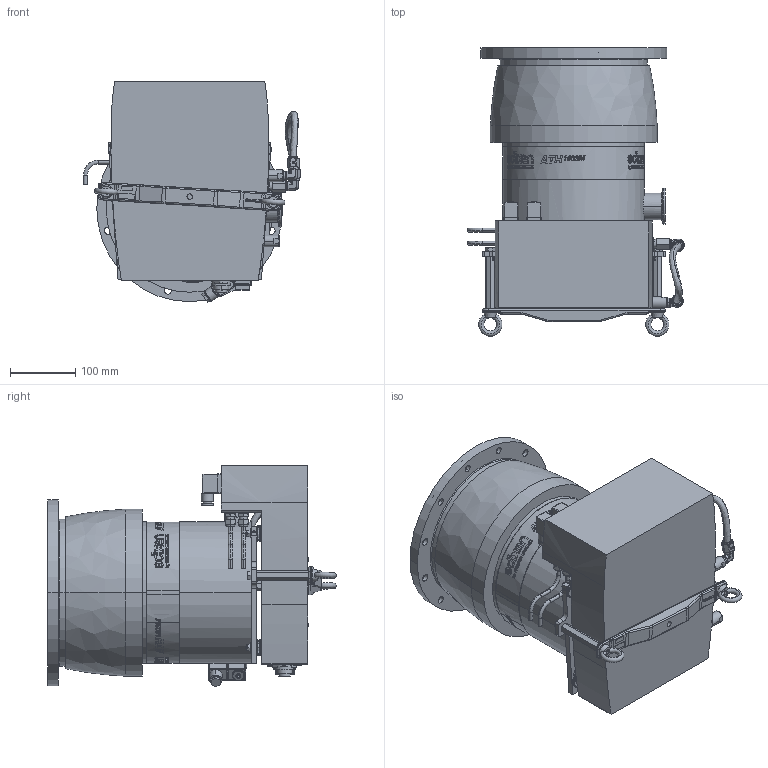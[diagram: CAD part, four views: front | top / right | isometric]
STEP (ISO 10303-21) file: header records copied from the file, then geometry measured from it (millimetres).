
FILE_DESCRIPTION((''),'2;1');
FILE_NAME('ENV-ATH1603M-GEN','2017-03-17T',('RCRIADO'),(''),'PRO/ENGINEER BY PARAMETRIC TECHNOLOGY CORPORATION, 2015280','PRO/ENGINEER BY PARAMETRIC TECHNOLOGY CORPORATION, 2015280','');
FILE_SCHEMA(('CONFIG_CONTROL_DESIGN'));
Products named in the file (1): ENV-ATH1603M-GEN
Bounding box: 332.93 x 442.15 x 339.58 mm (x, y, z)
Volume: 19999682.3 mm3; surface area: 858779.3 mm2
Topology: 1 solids, 12 shells, 4990 faces, 13140 edges, 8450 vertices
Faces by surface type: plane 1796, bspline 1308, cylinder 1193, cone 531, torus 112, sphere 40, extrusion 10
Entity records: 189829 total; most frequent: CARTESIAN_POINT 75822, ORIENTED_EDGE 26216, DIRECTION 19545, EDGE_CURVE 13108, VERTEX_POINT 8450, AXIS2_PLACEMENT_3D 6864, VECTOR 5817, LINE 5807
